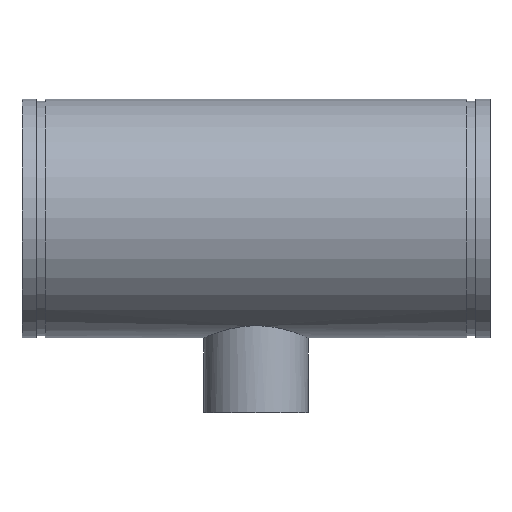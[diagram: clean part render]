
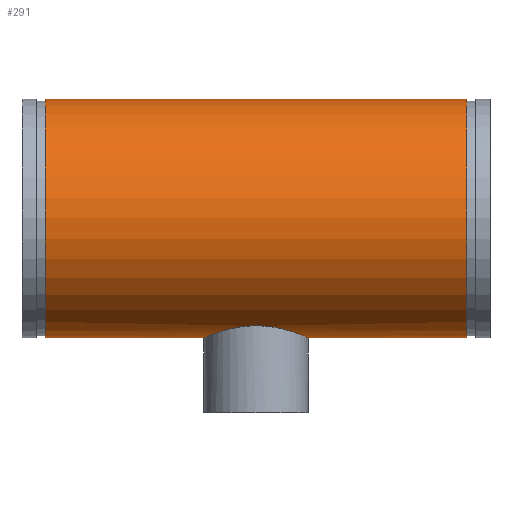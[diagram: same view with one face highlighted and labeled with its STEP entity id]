
A CAD part, top view. The second image highlights one B-rep face of the part: STEP entity #291.
In plain terms, the highlighted cylindrical face has radius 161.925 mm (diameter 323.85 mm), a full revolution.
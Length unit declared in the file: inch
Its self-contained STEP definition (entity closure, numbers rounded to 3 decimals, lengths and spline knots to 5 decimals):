
#45=B_SPLINE_CURVE_WITH_KNOTS('',3,(#511,#512,#513,#514,#515,#516,#517,
#518,#519,#520,#521,#522,#523,#524,#525,#526,#527,#528,#529,#530,#531,#532,
#533,#534,#535,#536,#537,#538,#539,#540,#541,#542,#543,#544,#545,#546,#547,
#548,#549,#550,#551,#552,#553,#554,#555,#556,#557,#558,#559,#560),
 .UNSPECIFIED.,.F.,.F.,(4,2,2,2,2,2,2,2,2,2,2,2,2,2,2,2,2,2,2,2,2,2,2,2,
4),(0.,1.35165,2.7033,4.05495,5.4066,
6.75625,8.1059,9.45555,10.8052,12.15485,
13.5045,14.85415,16.2038,17.55545,18.9071,
20.25875,21.6104,22.96205,24.3137,25.66535,
27.017,28.36665,29.7163,31.06595,32.4156),
 .UNSPECIFIED.);
#46=B_SPLINE_CURVE_WITH_KNOTS('',3,(#561,#562,#563,#564,#565,#566,#567,
#568,#569,#570,#571,#572,#573,#574,#575,#576,#577,#578),.UNSPECIFIED.,.F.,
 .F.,(4,2,2,2,2,2,2,2,4),(32.4156,33.76525,35.1149,
36.46455,37.8142,39.16585,40.5175,41.86915,
43.2208),.UNSPECIFIED.);
#51=LINE('',#508,#59);
#59=VECTOR('',#410,6.375);
#67=CYLINDRICAL_SURFACE('',#338,6.375);
#77=FACE_BOUND('',#108,.T.);
#88=FACE_OUTER_BOUND('',#107,.T.);
#107=EDGE_LOOP('',(#221,#222,#223,#224));
#108=EDGE_LOOP('',(#225,#226));
#121=CIRCLE('',#321,6.375);
#132=CIRCLE('',#337,6.375);
#141=VERTEX_POINT('',#476);
#152=VERTEX_POINT('',#505);
#153=VERTEX_POINT('',#509);
#154=VERTEX_POINT('',#510);
#165=EDGE_CURVE('',#141,#141,#121,.T.);
#178=EDGE_CURVE('',#152,#152,#132,.T.);
#179=EDGE_CURVE('',#152,#141,#51,.T.);
#180=EDGE_CURVE('',#153,#154,#45,.T.);
#181=EDGE_CURVE('',#154,#153,#46,.T.);
#221=ORIENTED_EDGE('',*,*,#178,.T.);
#222=ORIENTED_EDGE('',*,*,#179,.T.);
#223=ORIENTED_EDGE('',*,*,#165,.T.);
#224=ORIENTED_EDGE('',*,*,#179,.F.);
#225=ORIENTED_EDGE('',*,*,#180,.F.);
#226=ORIENTED_EDGE('',*,*,#181,.F.);
#291=ADVANCED_FACE('',(#88,#77),#67,.T.);
#321=AXIS2_PLACEMENT_3D('',#477,#372,#373);
#337=AXIS2_PLACEMENT_3D('',#506,#406,#407);
#338=AXIS2_PLACEMENT_3D('',#507,#408,#409);
#372=DIRECTION('center_axis',(-1.,0.,0.));
#373=DIRECTION('ref_axis',(0.,-1.,0.));
#406=DIRECTION('center_axis',(1.,0.,0.));
#407=DIRECTION('ref_axis',(0.,-1.,0.));
#408=DIRECTION('center_axis',(-1.,0.,0.));
#409=DIRECTION('ref_axis',(0.,-1.,0.));
#410=DIRECTION('',(1.,0.,0.));
#476=CARTESIAN_POINT('',(11.25,6.375,0.));
#477=CARTESIAN_POINT('Origin',(11.25,0.,0.));
#505=CARTESIAN_POINT('',(-11.25,6.375,0.));
#506=CARTESIAN_POINT('Origin',(-11.25,0.,0.));
#507=CARTESIAN_POINT('Origin',(12.5,0.,0.));
#508=CARTESIAN_POINT('',(12.5,6.375,0.));
#509=CARTESIAN_POINT('',(0.,-5.73619,-2.7815));
#510=CARTESIAN_POINT('',(-2.7815,-6.375,0.));
#511=CARTESIAN_POINT('Ctrl Pts',(0.,-5.73619,
-2.7815));
#512=CARTESIAN_POINT('Ctrl Pts',(0.17738,-5.73619,-2.7815));
#513=CARTESIAN_POINT('Ctrl Pts',(0.3599,-5.74465,-2.76426));
#514=CARTESIAN_POINT('Ctrl Pts',(0.72128,-5.77856,-2.69266));
#515=CARTESIAN_POINT('Ctrl Pts',(0.90015,-5.80396,-2.63833));
#516=CARTESIAN_POINT('Ctrl Pts',(1.2419,-5.86668,-2.49574));
#517=CARTESIAN_POINT('Ctrl Pts',(1.40511,-5.90399,-2.40737));
#518=CARTESIAN_POINT('Ctrl Pts',(1.70644,-5.98287,-2.20405));
#519=CARTESIAN_POINT('Ctrl Pts',(1.84456,-6.02436,-2.08907));
#520=CARTESIAN_POINT('Ctrl Pts',(2.08889,-6.10361,-1.84474));
#521=CARTESIAN_POINT('Ctrl Pts',(2.20384,-6.14426,-1.70671));
#522=CARTESIAN_POINT('Ctrl Pts',(2.40724,-6.22011,-1.40534));
#523=CARTESIAN_POINT('Ctrl Pts',(2.4957,-6.25525,-1.242));
#524=CARTESIAN_POINT('Ctrl Pts',(2.63839,-6.31354,-0.89998));
#525=CARTESIAN_POINT('Ctrl Pts',(2.69274,-6.3367,-0.72098));
#526=CARTESIAN_POINT('Ctrl Pts',(2.76431,-6.36744,-0.35955));
#527=CARTESIAN_POINT('Ctrl Pts',(2.7815,-6.375,-0.17712));
#528=CARTESIAN_POINT('Ctrl Pts',(2.7815,-6.375,0.17712));
#529=CARTESIAN_POINT('Ctrl Pts',(2.76431,-6.36744,0.35955));
#530=CARTESIAN_POINT('Ctrl Pts',(2.69274,-6.3367,0.72098));
#531=CARTESIAN_POINT('Ctrl Pts',(2.63839,-6.31354,0.89998));
#532=CARTESIAN_POINT('Ctrl Pts',(2.4957,-6.25525,1.242));
#533=CARTESIAN_POINT('Ctrl Pts',(2.40724,-6.22011,1.40534));
#534=CARTESIAN_POINT('Ctrl Pts',(2.20384,-6.14426,1.70671));
#535=CARTESIAN_POINT('Ctrl Pts',(2.08889,-6.10361,1.84474));
#536=CARTESIAN_POINT('Ctrl Pts',(1.84456,-6.02436,2.08907));
#537=CARTESIAN_POINT('Ctrl Pts',(1.70644,-5.98287,2.20405));
#538=CARTESIAN_POINT('Ctrl Pts',(1.40511,-5.90399,2.40737));
#539=CARTESIAN_POINT('Ctrl Pts',(1.2419,-5.86668,2.49574));
#540=CARTESIAN_POINT('Ctrl Pts',(0.90015,-5.80396,2.63833));
#541=CARTESIAN_POINT('Ctrl Pts',(0.72128,-5.77856,2.69266));
#542=CARTESIAN_POINT('Ctrl Pts',(0.3599,-5.74465,2.76426));
#543=CARTESIAN_POINT('Ctrl Pts',(0.17738,-5.73619,2.7815));
#544=CARTESIAN_POINT('Ctrl Pts',(-0.17738,-5.73619,2.7815));
#545=CARTESIAN_POINT('Ctrl Pts',(-0.3599,-5.74465,2.76426));
#546=CARTESIAN_POINT('Ctrl Pts',(-0.72128,-5.77856,2.69266));
#547=CARTESIAN_POINT('Ctrl Pts',(-0.90015,-5.80396,2.63833));
#548=CARTESIAN_POINT('Ctrl Pts',(-1.2419,-5.86668,2.49574));
#549=CARTESIAN_POINT('Ctrl Pts',(-1.40511,-5.90399,2.40737));
#550=CARTESIAN_POINT('Ctrl Pts',(-1.70644,-5.98287,2.20405));
#551=CARTESIAN_POINT('Ctrl Pts',(-1.84456,-6.02436,2.08907));
#552=CARTESIAN_POINT('Ctrl Pts',(-2.08889,-6.10361,1.84474));
#553=CARTESIAN_POINT('Ctrl Pts',(-2.20384,-6.14426,1.70671));
#554=CARTESIAN_POINT('Ctrl Pts',(-2.40724,-6.22011,1.40534));
#555=CARTESIAN_POINT('Ctrl Pts',(-2.4957,-6.25525,1.242));
#556=CARTESIAN_POINT('Ctrl Pts',(-2.63839,-6.31354,0.89998));
#557=CARTESIAN_POINT('Ctrl Pts',(-2.69274,-6.3367,0.72098));
#558=CARTESIAN_POINT('Ctrl Pts',(-2.76431,-6.36744,0.35955));
#559=CARTESIAN_POINT('Ctrl Pts',(-2.7815,-6.375,0.17712));
#560=CARTESIAN_POINT('Ctrl Pts',(-2.7815,-6.375,0.));
#561=CARTESIAN_POINT('Ctrl Pts',(-2.7815,-6.375,0.));
#562=CARTESIAN_POINT('Ctrl Pts',(-2.7815,-6.375,-0.17712));
#563=CARTESIAN_POINT('Ctrl Pts',(-2.76431,-6.36744,-0.35955));
#564=CARTESIAN_POINT('Ctrl Pts',(-2.69274,-6.3367,-0.72098));
#565=CARTESIAN_POINT('Ctrl Pts',(-2.63839,-6.31354,-0.89998));
#566=CARTESIAN_POINT('Ctrl Pts',(-2.4957,-6.25525,-1.242));
#567=CARTESIAN_POINT('Ctrl Pts',(-2.40724,-6.22011,-1.40534));
#568=CARTESIAN_POINT('Ctrl Pts',(-2.20384,-6.14426,-1.70671));
#569=CARTESIAN_POINT('Ctrl Pts',(-2.08889,-6.10361,-1.84474));
#570=CARTESIAN_POINT('Ctrl Pts',(-1.84456,-6.02436,-2.08907));
#571=CARTESIAN_POINT('Ctrl Pts',(-1.70644,-5.98287,-2.20405));
#572=CARTESIAN_POINT('Ctrl Pts',(-1.40511,-5.90399,-2.40737));
#573=CARTESIAN_POINT('Ctrl Pts',(-1.2419,-5.86668,-2.49574));
#574=CARTESIAN_POINT('Ctrl Pts',(-0.90015,-5.80396,-2.63833));
#575=CARTESIAN_POINT('Ctrl Pts',(-0.72128,-5.77856,-2.69266));
#576=CARTESIAN_POINT('Ctrl Pts',(-0.3599,-5.74465,-2.76426));
#577=CARTESIAN_POINT('Ctrl Pts',(-0.17738,-5.73619,-2.7815));
#578=CARTESIAN_POINT('Ctrl Pts',(0.,-5.73619,
-2.7815));
